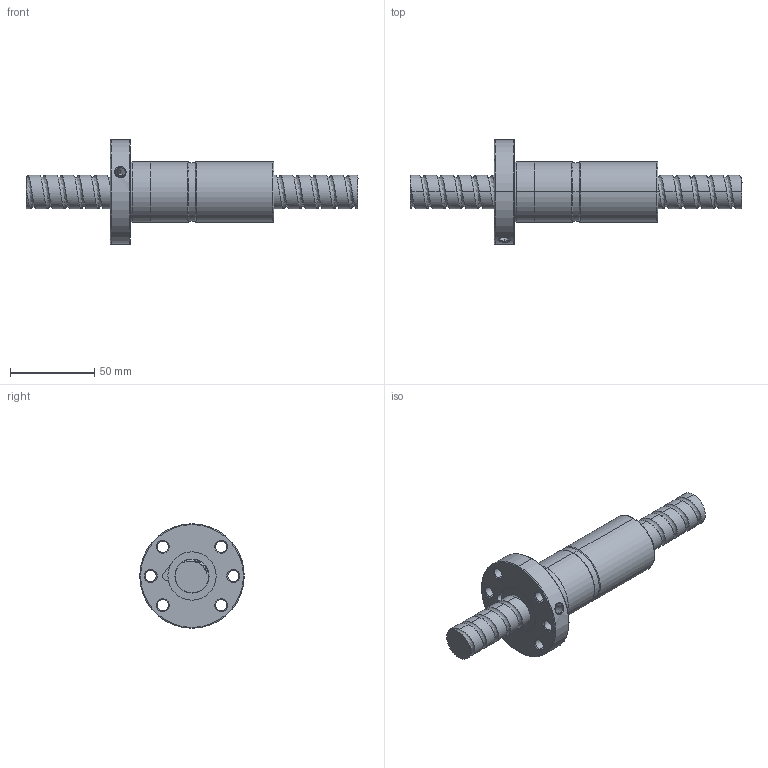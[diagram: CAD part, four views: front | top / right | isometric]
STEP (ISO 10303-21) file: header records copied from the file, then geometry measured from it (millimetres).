
FILE_DESCRIPTION (( 'STEP AP214' ), '1' );
FILE_NAME ('FDDC02010T3-B-A.STEP', '2010-07-06T03:01:46', ( 'XPAUTO' ), ( 'XPAUTO' ), 'SwSTEP 2.0', 'SolidWorks 2007', '' );
FILE_SCHEMA (( 'AUTOMOTIVE_DESIGN' ));
Length unit declared in the file: millimetre
Products named in the file (3): FDDC02010T3-B-A; FDDC02010T3-B-A.sldasm-Part-1_預設; FDDC02010T3-B-A.sldasm-Part-2_預設
Assembly tree (2 placements, depth 2):
  FDDC02010T3-B-A
    FDDC02010T3-B-A.sldasm-Part-2_預設
    FDDC02010T3-B-A.sldasm-Part-1_預設
Bounding box: 197 x 62 x 62 mm (x, y, z)
Volume: 145801.9 mm3; surface area: 39219 mm2
Topology: 2 solids, 2 shells, 139 faces, 347 edges, 217 vertices
Faces by surface type: cylinder 84, cone 24, plane 16, torus 10, bspline 5
Entity records: 26234 total; most frequent: CARTESIAN_POINT 22923, ORIENTED_EDGE 694, DIRECTION 649, EDGE_CURVE 347, AXIS2_PLACEMENT_3D 267, VERTEX_POINT 217, EDGE_LOOP 160, FACE_OUTER_BOUND 139
